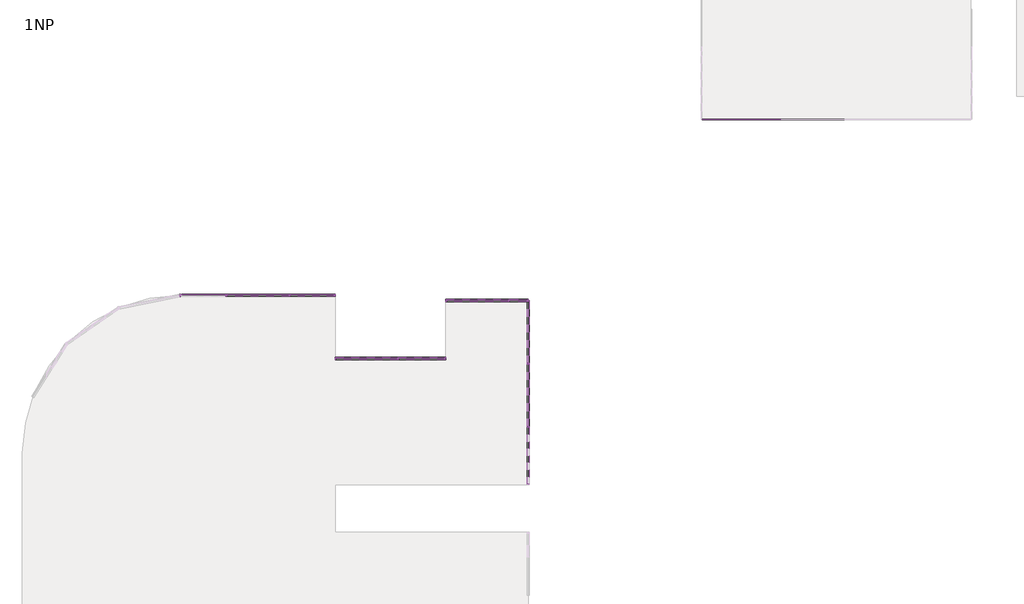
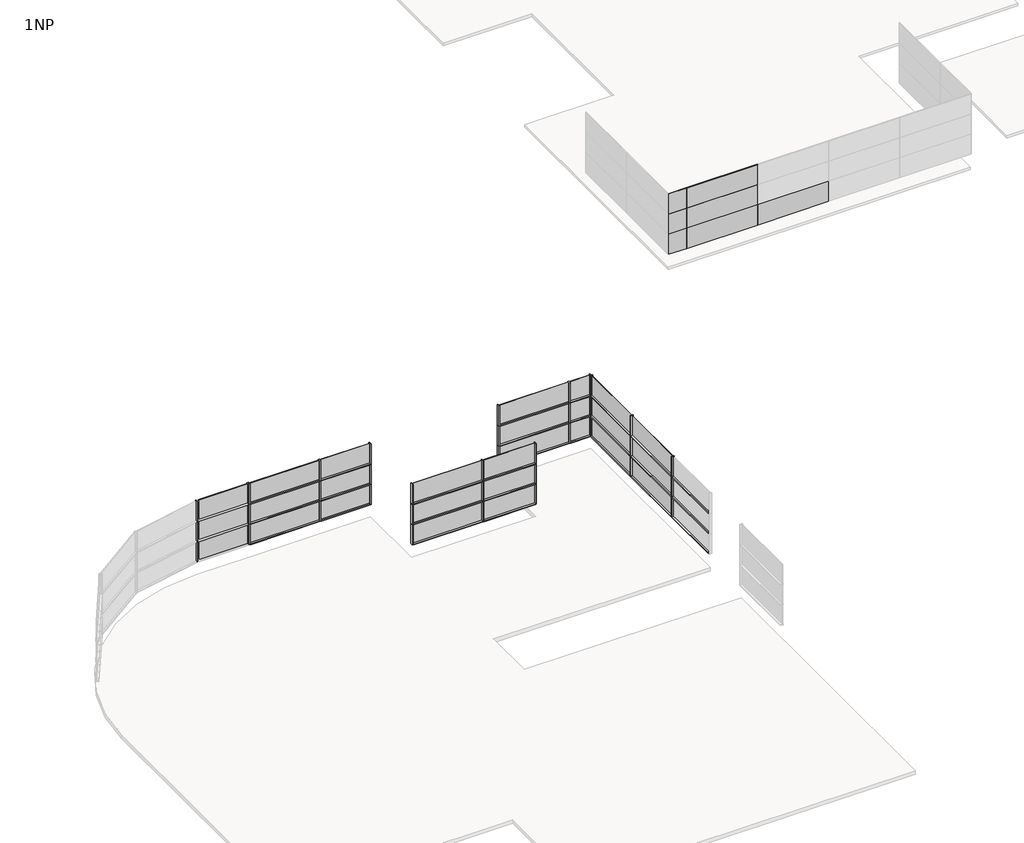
# One storey, part 3 of 4: 69 members, 34 plates.
"""IFC4 building model written with IfcOpenShell, lengths in millimetres."""

from ifc_helpers import new_model, si_unit, origin, place, context, project, spatial, transform, mapped, element, save
from components import rectangular_mullion_50_x_150mm_d99dc9be, rectangular_mullion_50_x_150mm_6588f46c, rectangular_mullion_50_x_150mm_3fe1b35e, rectangular_mullion_50_x_150mm_a037c29c, rectangular_mullion_50_x_150mm_c2546fd4, rectangular_mullion_50_x_150mm_8b4cb4b7, rectangular_mullion_50_x_150mm_185cfd49, rectangular_mullion_50_x_150mm_2fe63767, system_panel_glazed_8e9402eb, system_panel_glazed_89ac83a7, system_panel_glazed_e890f31e, system_panel_glazed_e3e91f99, system_panel_glazed_39d17f19, system_panel_glazed_18d93cd4, system_panel_glazed_d6eabcf1, system_panel_glazed_926b6355

model = new_model("IFC4")

# Units and contexts
model_context = context("Model", 3, world=origin())
ifc_project = project(units=[si_unit("LENGTHUNIT", "METRE", prefix="MILLI")], contexts=[model_context])

# Site, building, storey
site = spatial("IfcSite", under=ifc_project)
building = spatial("IfcBuilding", under=site)
storey = spatial("IfcBuildingStorey", under=building, Name="1NP", Elevation=4000.0)

# Members
placement = place(None, origin())
rectangular_mullion_50_x_150mm_shape = rectangular_mullion_50_x_150mm_d99dc9be(model_context)
element("IfcMember", 1, ObjectType="Rectangular Mullion : 50 x 150mm", at=placement, inside=storey, context=model_context, shape_type="MappedRepresentation", body=[
    mapped(rectangular_mullion_50_x_150mm_shape, transform((13503.2660975, 39.3555415, 8400.0), x_axis=(0.0, -1.0, 0.0), y_axis=(1.0, 0.0, 0.0), z_axis=(0.0, 0.0, 1.0))),
])
element("IfcMember", 2, ObjectType="Rectangular Mullion : 50 x 150mm", at=placement, inside=storey, context=model_context, shape_type="MappedRepresentation", body=[
    mapped(rectangular_mullion_50_x_150mm_shape, transform((13503.2660975, 39.3555415, 7200.0), x_axis=(0.0, -1.0, 0.0), y_axis=(1.0, 0.0, 0.0), z_axis=(0.0, 0.0, 1.0))),
])
element("IfcMember", 3, ObjectType="Rectangular Mullion : 50 x 150mm", at=placement, inside=storey, context=model_context, shape_type="MappedRepresentation", body=[
    mapped(rectangular_mullion_50_x_150mm_shape, transform((13503.2660975, 39.3555415, 6000.0), x_axis=(0.0, -1.0, 0.0), y_axis=(1.0, 0.0, 0.0), z_axis=(0.0, 0.0, 1.0))),
])
element("IfcMember", 4, ObjectType="Rectangular Mullion : 50 x 150mm", at=placement, inside=storey, context=model_context, shape_type="MappedRepresentation", body=[
    mapped(rectangular_mullion_50_x_150mm_shape, transform((13503.2660975, 4039.3555415, 8400.0), x_axis=(0.0, -1.0, 0.0), y_axis=(1.0, 0.0, 0.0), z_axis=(0.0, 0.0, 1.0))),
])
element("IfcMember", 5, ObjectType="Rectangular Mullion : 50 x 150mm", at=placement, inside=storey, context=model_context, shape_type="MappedRepresentation", body=[
    mapped(rectangular_mullion_50_x_150mm_shape, transform((13503.2660975, 4039.3555415, 7200.0), x_axis=(0.0, -1.0, 0.0), y_axis=(1.0, 0.0, 0.0), z_axis=(0.0, 0.0, 1.0))),
])
element("IfcMember", 6, ObjectType="Rectangular Mullion : 50 x 150mm", at=placement, inside=storey, context=model_context, shape_type="MappedRepresentation", body=[
    mapped(rectangular_mullion_50_x_150mm_shape, transform((13503.2660975, 4039.3555415, 6000.0), x_axis=(0.0, -1.0, 0.0), y_axis=(1.0, 0.0, 0.0), z_axis=(0.0, 0.0, 1.0))),
])
element("IfcMember", 7, ObjectType="Rectangular Mullion : 50 x 150mm", at=placement, inside=storey, context=model_context, shape_type="MappedRepresentation", body=[
    mapped(rectangular_mullion_50_x_150mm_shape, transform((-1587.173406, 8375.9839566, 6000.0), x_axis=(1.0, 0.0, 0.0), y_axis=(0.0, 1.0, 0.0), z_axis=(0.0, 0.0, 1.0))),
])
element("IfcMember", 8, ObjectType="Rectangular Mullion : 50 x 150mm", at=placement, inside=storey, context=model_context, shape_type="MappedRepresentation", body=[
    mapped(rectangular_mullion_50_x_150mm_shape, transform((-1587.173406, 8375.9839566, 7200.0), x_axis=(1.0, 0.0, 0.0), y_axis=(0.0, 1.0, 0.0), z_axis=(0.0, 0.0, 1.0))),
])
element("IfcMember", 9, ObjectType="Rectangular Mullion : 50 x 150mm", at=placement, inside=storey, context=model_context, shape_type="MappedRepresentation", body=[
    mapped(rectangular_mullion_50_x_150mm_shape, transform((-1587.173406, 8375.9839566, 8400.0), x_axis=(1.0, 0.0, 0.0), y_axis=(0.0, 1.0, 0.0), z_axis=(0.0, 0.0, 1.0))),
])
element("IfcMember", 10, ObjectType="Rectangular Mullion : 50 x 150mm", at=placement, inside=storey, context=model_context, shape_type="MappedRepresentation", body=[
    mapped(rectangular_mullion_50_x_150mm_shape, transform((5278.419219, 4375.9839566, 6000.0), x_axis=(1.0, 0.0, 0.0), y_axis=(0.0, 1.0, 0.0), z_axis=(0.0, 0.0, 1.0))),
])
element("IfcMember", 11, ObjectType="Rectangular Mullion : 50 x 150mm", at=placement, inside=storey, context=model_context, shape_type="MappedRepresentation", body=[
    mapped(rectangular_mullion_50_x_150mm_shape, transform((5278.419219, 4375.9839566, 7200.0), x_axis=(1.0, 0.0, 0.0), y_axis=(0.0, 1.0, 0.0), z_axis=(0.0, 0.0, 1.0))),
])
element("IfcMember", 12, ObjectType="Rectangular Mullion : 50 x 150mm", at=placement, inside=storey, context=model_context, shape_type="MappedRepresentation", body=[
    mapped(rectangular_mullion_50_x_150mm_shape, transform((5278.419219, 4375.9839566, 8400.0), x_axis=(1.0, 0.0, 0.0), y_axis=(0.0, 1.0, 0.0), z_axis=(0.0, 0.0, 1.0))),
])
element("IfcMember", 13, ObjectType="Rectangular Mullion : 50 x 150mm", at=placement, inside=storey, context=model_context, shape_type="MappedRepresentation", body=[
    mapped(rectangular_mullion_50_x_150mm_shape, transform((12278.419219, 8039.3555415, 6000.0), x_axis=(1.0, 0.0, 0.0), y_axis=(0.0, 1.0, 0.0), z_axis=(0.0, 0.0, 1.0))),
])
element("IfcMember", 14, ObjectType="Rectangular Mullion : 50 x 150mm", at=placement, inside=storey, context=model_context, shape_type="MappedRepresentation", body=[
    mapped(rectangular_mullion_50_x_150mm_shape, transform((12278.419219, 8039.3555415, 7200.0), x_axis=(1.0, 0.0, 0.0), y_axis=(0.0, 1.0, 0.0), z_axis=(0.0, 0.0, 1.0))),
])
element("IfcMember", 15, ObjectType="Rectangular Mullion : 50 x 150mm", at=placement, inside=storey, context=model_context, shape_type="MappedRepresentation", body=[
    mapped(rectangular_mullion_50_x_150mm_shape, transform((12278.419219, 8039.3555415, 8400.0), x_axis=(1.0, 0.0, 0.0), y_axis=(0.0, 1.0, 0.0), z_axis=(0.0, 0.0, 1.0))),
])
rectangular_mullion_50_x_150mm_2_shape = rectangular_mullion_50_x_150mm_6588f46c(model_context)
element("IfcMember", 16, ObjectType="Rectangular Mullion : 50 x 150mm", at=placement, inside=storey, context=model_context, shape_type="MappedRepresentation", body=[
    mapped(rectangular_mullion_50_x_150mm_2_shape, transform((1278.419219, 8375.9839566, 6000.0), x_axis=(1.0, 0.0, 0.0), y_axis=(0.0, 1.0, 0.0), z_axis=(0.0, 0.0, 1.0))),
])
element("IfcMember", 17, ObjectType="Rectangular Mullion : 50 x 150mm", at=placement, inside=storey, context=model_context, shape_type="MappedRepresentation", body=[
    mapped(rectangular_mullion_50_x_150mm_2_shape, transform((1278.419219, 8375.9839566, 7200.0), x_axis=(1.0, 0.0, 0.0), y_axis=(0.0, 1.0, 0.0), z_axis=(0.0, 0.0, 1.0))),
])
element("IfcMember", 18, ObjectType="Rectangular Mullion : 50 x 150mm", at=placement, inside=storey, context=model_context, shape_type="MappedRepresentation", body=[
    mapped(rectangular_mullion_50_x_150mm_2_shape, transform((1278.419219, 8375.9839566, 8400.0), x_axis=(1.0, 0.0, 0.0), y_axis=(0.0, 1.0, 0.0), z_axis=(0.0, 0.0, 1.0))),
])
element("IfcMember", 19, ObjectType="Rectangular Mullion : 50 x 150mm", at=placement, inside=storey, context=model_context, shape_type="MappedRepresentation", body=[
    mapped(rectangular_mullion_50_x_150mm_2_shape, transform((8278.419219, 4375.9839566, 6000.0), x_axis=(1.0, 0.0, 0.0), y_axis=(0.0, 1.0, 0.0), z_axis=(0.0, 0.0, 1.0))),
])
element("IfcMember", 20, ObjectType="Rectangular Mullion : 50 x 150mm", at=placement, inside=storey, context=model_context, shape_type="MappedRepresentation", body=[
    mapped(rectangular_mullion_50_x_150mm_2_shape, transform((8278.419219, 4375.9839566, 7200.0), x_axis=(1.0, 0.0, 0.0), y_axis=(0.0, 1.0, 0.0), z_axis=(0.0, 0.0, 1.0))),
])
element("IfcMember", 21, ObjectType="Rectangular Mullion : 50 x 150mm", at=placement, inside=storey, context=model_context, shape_type="MappedRepresentation", body=[
    mapped(rectangular_mullion_50_x_150mm_2_shape, transform((8278.419219, 4375.9839566, 8400.0), x_axis=(1.0, 0.0, 0.0), y_axis=(0.0, 1.0, 0.0), z_axis=(0.0, 0.0, 1.0))),
])
element("IfcMember", 22, ObjectType="Rectangular Mullion : 50 x 150mm", at=placement, inside=storey, context=model_context, shape_type="MappedRepresentation", body=[
    mapped(rectangular_mullion_50_x_150mm_2_shape, transform((13503.2660975, 8039.3555415, 6000.0), x_axis=(1.0, 0.0, 0.0), y_axis=(0.0, 1.0, 0.0), z_axis=(0.0, 0.0, 1.0))),
])
element("IfcMember", 23, ObjectType="Rectangular Mullion : 50 x 150mm", at=placement, inside=storey, context=model_context, shape_type="MappedRepresentation", body=[
    mapped(rectangular_mullion_50_x_150mm_2_shape, transform((13503.2660975, 8039.3555415, 7200.0), x_axis=(1.0, 0.0, 0.0), y_axis=(0.0, 1.0, 0.0), z_axis=(0.0, 0.0, 1.0))),
])
element("IfcMember", 24, ObjectType="Rectangular Mullion : 50 x 150mm", at=placement, inside=storey, context=model_context, shape_type="MappedRepresentation", body=[
    mapped(rectangular_mullion_50_x_150mm_2_shape, transform((13503.2660975, 8039.3555415, 8400.0), x_axis=(1.0, 0.0, 0.0), y_axis=(0.0, 1.0, 0.0), z_axis=(0.0, 0.0, 1.0))),
])
element("IfcMember", 25, ObjectType="Rectangular Mullion : 50 x 150mm", at=placement, inside=storey, context=model_context, shape_type="MappedRepresentation", body=[
    mapped(rectangular_mullion_50_x_150mm_2_shape, transform((-5587.173406, 8375.9839566, 6000.0), x_axis=(1.0, 0.0, 0.0), y_axis=(0.0, 1.0, 0.0), z_axis=(0.0, 0.0, 1.0))),
])
element("IfcMember", 26, ObjectType="Rectangular Mullion : 50 x 150mm", at=placement, inside=storey, context=model_context, shape_type="MappedRepresentation", body=[
    mapped(rectangular_mullion_50_x_150mm_2_shape, transform((-5587.173406, 8375.9839566, 7200.0), x_axis=(1.0, 0.0, 0.0), y_axis=(0.0, 1.0, 0.0), z_axis=(0.0, 0.0, 1.0))),
])
element("IfcMember", 27, ObjectType="Rectangular Mullion : 50 x 150mm", at=placement, inside=storey, context=model_context, shape_type="MappedRepresentation", body=[
    mapped(rectangular_mullion_50_x_150mm_2_shape, transform((-5587.173406, 8375.9839566, 8400.0), x_axis=(1.0, 0.0, 0.0), y_axis=(0.0, 1.0, 0.0), z_axis=(0.0, 0.0, 1.0))),
])
element("IfcMember", 28, ObjectType="Rectangular Mullion : 50 x 150mm", at=placement, inside=storey, context=model_context, shape_type="MappedRepresentation", body=[
    mapped(rectangular_mullion_50_x_150mm_2_shape, transform((-8496.7339025, 8375.9839566, 6000.0), x_axis=(0.9797958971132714, 0.1999999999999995, 0.0), y_axis=(-0.1999999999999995, 0.9797958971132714, 0.0), z_axis=(0.0, 0.0, 1.0))),
])
element("IfcMember", 29, ObjectType="Rectangular Mullion : 50 x 150mm", at=placement, inside=storey, context=model_context, shape_type="MappedRepresentation", body=[
    mapped(rectangular_mullion_50_x_150mm_2_shape, transform((-8496.7339025, 8375.9839566, 7200.0), x_axis=(0.9797958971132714, 0.1999999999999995, 0.0), y_axis=(-0.1999999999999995, 0.9797958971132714, 0.0), z_axis=(0.0, 0.0, 1.0))),
])
element("IfcMember", 30, ObjectType="Rectangular Mullion : 50 x 150mm", at=placement, inside=storey, context=model_context, shape_type="MappedRepresentation", body=[
    mapped(rectangular_mullion_50_x_150mm_2_shape, transform((-8496.7339025, 8375.9839566, 8400.0), x_axis=(0.9797958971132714, 0.1999999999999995, 0.0), y_axis=(-0.1999999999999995, 0.9797958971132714, 0.0), z_axis=(0.0, 0.0, 1.0))),
])
rectangular_mullion_50_x_150mm_3_shape = rectangular_mullion_50_x_150mm_3fe1b35e(model_context)
element("IfcMember", 31, ObjectType="Rectangular Mullion : 50 x 150mm", at=placement, inside=storey, context=model_context, shape_type="MappedRepresentation", body=[
    mapped(rectangular_mullion_50_x_150mm_3_shape, transform((13503.2660975, 14.3555415, 6000.0), x_axis=(0.0, 0.0, 1.0), y_axis=(1.0, 0.0, 0.0), z_axis=(0.0, 1.0, 0.0))),
])
element("IfcMember", 32, ObjectType="Rectangular Mullion : 50 x 150mm", at=placement, inside=storey, context=model_context, shape_type="MappedRepresentation", body=[
    mapped(rectangular_mullion_50_x_150mm_3_shape, transform((13503.2660975, 14.3555415, 4800.0), x_axis=(0.0, 0.0, 1.0), y_axis=(1.0, 0.0, 0.0), z_axis=(0.0, 1.0, 0.0))),
])
element("IfcMember", 33, ObjectType="Rectangular Mullion : 50 x 150mm", at=placement, inside=storey, context=model_context, shape_type="MappedRepresentation", body=[
    mapped(rectangular_mullion_50_x_150mm_3_shape, transform((13503.2660975, 14.3555415, 7200.0), x_axis=(0.0, 0.0, 1.0), y_axis=(1.0, 0.0, 0.0), z_axis=(0.0, 1.0, 0.0))),
])
rectangular_mullion_50_x_150mm_4_shape = rectangular_mullion_50_x_150mm_a037c29c(model_context)
element("IfcMember", 34, ObjectType="Rectangular Mullion : 50 x 150mm", at=placement, inside=storey, context=model_context, shape_type="MappedRepresentation", body=[
    mapped(rectangular_mullion_50_x_150mm_4_shape, transform((13503.2660975, 4014.3555415, 6000.0), x_axis=(0.0, 0.0, 1.0), y_axis=(1.0, 0.0, 0.0), z_axis=(0.0, 1.0, 0.0))),
])
element("IfcMember", 35, ObjectType="Rectangular Mullion : 50 x 150mm", at=placement, inside=storey, context=model_context, shape_type="MappedRepresentation", body=[
    mapped(rectangular_mullion_50_x_150mm_4_shape, transform((13503.2660975, 4014.3555415, 4800.0), x_axis=(0.0, 0.0, 1.0), y_axis=(1.0, 0.0, 0.0), z_axis=(0.0, 1.0, 0.0))),
])
element("IfcMember", 36, ObjectType="Rectangular Mullion : 50 x 150mm", at=placement, inside=storey, context=model_context, shape_type="MappedRepresentation", body=[
    mapped(rectangular_mullion_50_x_150mm_4_shape, transform((13503.2660975, 4014.3555415, 7200.0), x_axis=(0.0, 0.0, 1.0), y_axis=(1.0, 0.0, 0.0), z_axis=(0.0, 1.0, 0.0))),
])
rectangular_mullion_50_x_150mm_5_shape = rectangular_mullion_50_x_150mm_c2546fd4(model_context)
element("IfcMember", 37, ObjectType="Rectangular Mullion : 50 x 150mm", at=placement, inside=storey, context=model_context, shape_type="MappedRepresentation", body=[
    mapped(rectangular_mullion_50_x_150mm_5_shape, transform((13503.2660975, 7989.3555415, 6000.0), x_axis=(0.0, 0.0, 1.0), y_axis=(1.0, 0.0, 0.0), z_axis=(0.0, 1.0, 0.0))),
])
element("IfcMember", 38, ObjectType="Rectangular Mullion : 50 x 150mm", at=placement, inside=storey, context=model_context, shape_type="MappedRepresentation", body=[
    mapped(rectangular_mullion_50_x_150mm_5_shape, transform((13503.2660975, 7989.3555415, 4800.0), x_axis=(0.0, 0.0, 1.0), y_axis=(1.0, 0.0, 0.0), z_axis=(0.0, 1.0, 0.0))),
])
element("IfcMember", 39, ObjectType="Rectangular Mullion : 50 x 150mm", at=placement, inside=storey, context=model_context, shape_type="MappedRepresentation", body=[
    mapped(rectangular_mullion_50_x_150mm_5_shape, transform((13503.2660975, 7989.3555415, 7200.0), x_axis=(0.0, 0.0, 1.0), y_axis=(1.0, 0.0, 0.0), z_axis=(0.0, 1.0, 0.0))),
])
element("IfcMember", 40, ObjectType="Rectangular Mullion : 50 x 150mm", at=placement, inside=storey, context=model_context, shape_type="MappedRepresentation", body=[
    mapped(rectangular_mullion_50_x_150mm_5_shape, transform((-5537.173406, 8375.9839566, 6000.0), x_axis=(0.0, 0.0, 1.0), y_axis=(0.0, 1.0, 0.0), z_axis=(-1.0, 0.0, 0.0))),
])
element("IfcMember", 41, ObjectType="Rectangular Mullion : 50 x 150mm", at=placement, inside=storey, context=model_context, shape_type="MappedRepresentation", body=[
    mapped(rectangular_mullion_50_x_150mm_5_shape, transform((-5537.173406, 8375.9839566, 7200.0), x_axis=(0.0, 0.0, 1.0), y_axis=(0.0, 1.0, 0.0), z_axis=(-1.0, 0.0, 0.0))),
])
element("IfcMember", 42, ObjectType="Rectangular Mullion : 50 x 150mm", at=placement, inside=storey, context=model_context, shape_type="MappedRepresentation", body=[
    mapped(rectangular_mullion_50_x_150mm_5_shape, transform((-5537.173406, 8375.9839566, 4800.0), x_axis=(0.0, 0.0, 1.0), y_axis=(0.0, 1.0, 0.0), z_axis=(-1.0, 0.0, 0.0))),
])
element("IfcMember", 43, ObjectType="Rectangular Mullion : 50 x 150mm", at=placement, inside=storey, context=model_context, shape_type="MappedRepresentation", body=[
    mapped(rectangular_mullion_50_x_150mm_5_shape, transform((1328.419219, 4375.9839566, 4800.0), x_axis=(0.0, 0.0, 1.0), y_axis=(0.0, 1.0, 0.0), z_axis=(-1.0, 0.0, 0.0))),
])
element("IfcMember", 44, ObjectType="Rectangular Mullion : 50 x 150mm", at=placement, inside=storey, context=model_context, shape_type="MappedRepresentation", body=[
    mapped(rectangular_mullion_50_x_150mm_5_shape, transform((1328.419219, 4375.9839566, 6000.0), x_axis=(0.0, 0.0, 1.0), y_axis=(0.0, 1.0, 0.0), z_axis=(-1.0, 0.0, 0.0))),
])
element("IfcMember", 45, ObjectType="Rectangular Mullion : 50 x 150mm", at=placement, inside=storey, context=model_context, shape_type="MappedRepresentation", body=[
    mapped(rectangular_mullion_50_x_150mm_5_shape, transform((1328.419219, 4375.9839566, 7200.0), x_axis=(0.0, 0.0, 1.0), y_axis=(0.0, 1.0, 0.0), z_axis=(-1.0, 0.0, 0.0))),
])
element("IfcMember", 46, ObjectType="Rectangular Mullion : 50 x 150mm", at=placement, inside=storey, context=model_context, shape_type="MappedRepresentation", body=[
    mapped(rectangular_mullion_50_x_150mm_5_shape, transform((8328.419219, 8039.3555415, 4800.0), x_axis=(0.0, 0.0, 1.0), y_axis=(0.0, 1.0, 0.0), z_axis=(-1.0, 0.0, 0.0))),
])
element("IfcMember", 47, ObjectType="Rectangular Mullion : 50 x 150mm", at=placement, inside=storey, context=model_context, shape_type="MappedRepresentation", body=[
    mapped(rectangular_mullion_50_x_150mm_5_shape, transform((8328.419219, 8039.3555415, 6000.0), x_axis=(0.0, 0.0, 1.0), y_axis=(0.0, 1.0, 0.0), z_axis=(-1.0, 0.0, 0.0))),
])
element("IfcMember", 48, ObjectType="Rectangular Mullion : 50 x 150mm", at=placement, inside=storey, context=model_context, shape_type="MappedRepresentation", body=[
    mapped(rectangular_mullion_50_x_150mm_5_shape, transform((8328.419219, 8039.3555415, 7200.0), x_axis=(0.0, 0.0, 1.0), y_axis=(0.0, 1.0, 0.0), z_axis=(-1.0, 0.0, 0.0))),
])
element("IfcMember", 49, ObjectType="Rectangular Mullion : 50 x 150mm", at=placement, inside=storey, context=model_context, shape_type="MappedRepresentation", body=[
    mapped(rectangular_mullion_50_x_150mm_2_shape, transform((13503.2660975, 8039.3555415, 7200.0), x_axis=(0.0, 1.0, 0.0), y_axis=(1.0, 0.0, 0.0), z_axis=(0.0, 0.0, -1.0))),
])
element("IfcMember", 50, ObjectType="Rectangular Mullion : 50 x 150mm", at=placement, inside=storey, context=model_context, shape_type="MappedRepresentation", body=[
    mapped(rectangular_mullion_50_x_150mm_2_shape, transform((13503.2660975, 8039.3555415, 6000.0), x_axis=(0.0, 1.0, 0.0), y_axis=(1.0, 0.0, 0.0), z_axis=(0.0, 0.0, -1.0))),
])
element("IfcMember", 51, ObjectType="Rectangular Mullion : 50 x 150mm", at=placement, inside=storey, context=model_context, shape_type="MappedRepresentation", body=[
    mapped(rectangular_mullion_50_x_150mm_2_shape, transform((13503.2660975, 8039.3555415, 4800.0), x_axis=(0.0, 1.0, 0.0), y_axis=(1.0, 0.0, 0.0), z_axis=(0.0, 0.0, -1.0))),
])
element("IfcMember", 52, ObjectType="Rectangular Mullion : 50 x 150mm", at=placement, inside=storey, context=model_context, shape_type="MappedRepresentation", body=[
    mapped(rectangular_mullion_50_x_150mm_2_shape, transform((-5587.173406, 8375.9839566, 4800.0), x_axis=(-1.0, 0.0, 0.0), y_axis=(0.0, 1.0, 0.0), z_axis=(0.0, 0.0, -1.0))),
])
element("IfcMember", 53, ObjectType="Rectangular Mullion : 50 x 150mm", at=placement, inside=storey, context=model_context, shape_type="MappedRepresentation", body=[
    mapped(rectangular_mullion_50_x_150mm_2_shape, transform((-5587.173406, 8375.9839566, 6000.0), x_axis=(-1.0, 0.0, 0.0), y_axis=(0.0, 1.0, 0.0), z_axis=(0.0, 0.0, -1.0))),
])
element("IfcMember", 54, ObjectType="Rectangular Mullion : 50 x 150mm", at=placement, inside=storey, context=model_context, shape_type="MappedRepresentation", body=[
    mapped(rectangular_mullion_50_x_150mm_2_shape, transform((-5587.173406, 8375.9839566, 7200.0), x_axis=(-1.0, 0.0, 0.0), y_axis=(0.0, 1.0, 0.0), z_axis=(0.0, 0.0, -1.0))),
])
element("IfcMember", 55, ObjectType="Rectangular Mullion : 50 x 150mm", at=placement, inside=storey, context=model_context, shape_type="MappedRepresentation", body=[
    mapped(rectangular_mullion_50_x_150mm_2_shape, transform((1278.419219, 4375.9839566, 4800.0), x_axis=(-1.0, 0.0, 0.0), y_axis=(0.0, 1.0, 0.0), z_axis=(0.0, 0.0, -1.0))),
])
element("IfcMember", 56, ObjectType="Rectangular Mullion : 50 x 150mm", at=placement, inside=storey, context=model_context, shape_type="MappedRepresentation", body=[
    mapped(rectangular_mullion_50_x_150mm_2_shape, transform((1278.419219, 4375.9839566, 6000.0), x_axis=(-1.0, 0.0, 0.0), y_axis=(0.0, 1.0, 0.0), z_axis=(0.0, 0.0, -1.0))),
])
element("IfcMember", 57, ObjectType="Rectangular Mullion : 50 x 150mm", at=placement, inside=storey, context=model_context, shape_type="MappedRepresentation", body=[
    mapped(rectangular_mullion_50_x_150mm_2_shape, transform((1278.419219, 4375.9839566, 7200.0), x_axis=(-1.0, 0.0, 0.0), y_axis=(0.0, 1.0, 0.0), z_axis=(0.0, 0.0, -1.0))),
])
element("IfcMember", 58, ObjectType="Rectangular Mullion : 50 x 150mm", at=placement, inside=storey, context=model_context, shape_type="MappedRepresentation", body=[
    mapped(rectangular_mullion_50_x_150mm_2_shape, transform((8278.419219, 8039.3555415, 4800.0), x_axis=(-1.0, 0.0, 0.0), y_axis=(0.0, 1.0, 0.0), z_axis=(0.0, 0.0, -1.0))),
])
element("IfcMember", 59, ObjectType="Rectangular Mullion : 50 x 150mm", at=placement, inside=storey, context=model_context, shape_type="MappedRepresentation", body=[
    mapped(rectangular_mullion_50_x_150mm_2_shape, transform((8278.419219, 8039.3555415, 6000.0), x_axis=(-1.0, 0.0, 0.0), y_axis=(0.0, 1.0, 0.0), z_axis=(0.0, 0.0, -1.0))),
])
element("IfcMember", 60, ObjectType="Rectangular Mullion : 50 x 150mm", at=placement, inside=storey, context=model_context, shape_type="MappedRepresentation", body=[
    mapped(rectangular_mullion_50_x_150mm_2_shape, transform((8278.419219, 8039.3555415, 7200.0), x_axis=(-1.0, 0.0, 0.0), y_axis=(0.0, 1.0, 0.0), z_axis=(0.0, 0.0, -1.0))),
])
rectangular_mullion_50_x_150mm_6_shape = rectangular_mullion_50_x_150mm_8b4cb4b7(model_context)
element("IfcMember", 61, ObjectType="Rectangular Mullion : 50 x 150mm", at=placement, inside=storey, context=model_context, shape_type="MappedRepresentation", body=[
    mapped(rectangular_mullion_50_x_150mm_6_shape, transform((-1562.173406, 8375.9839566, 4800.0), x_axis=(0.0, 0.0, 1.0), y_axis=(0.0, 1.0, 0.0), z_axis=(-1.0, 0.0, 0.0))),
])
element("IfcMember", 62, ObjectType="Rectangular Mullion : 50 x 150mm", at=placement, inside=storey, context=model_context, shape_type="MappedRepresentation", body=[
    mapped(rectangular_mullion_50_x_150mm_6_shape, transform((-1562.173406, 8375.9839566, 6000.0), x_axis=(0.0, 0.0, 1.0), y_axis=(0.0, 1.0, 0.0), z_axis=(-1.0, 0.0, 0.0))),
])
element("IfcMember", 63, ObjectType="Rectangular Mullion : 50 x 150mm", at=placement, inside=storey, context=model_context, shape_type="MappedRepresentation", body=[
    mapped(rectangular_mullion_50_x_150mm_6_shape, transform((-1562.173406, 8375.9839566, 7200.0), x_axis=(0.0, 0.0, 1.0), y_axis=(0.0, 1.0, 0.0), z_axis=(-1.0, 0.0, 0.0))),
])
rectangular_mullion_50_x_150mm_7_shape = rectangular_mullion_50_x_150mm_185cfd49(model_context)
element("IfcMember", 64, ObjectType="Rectangular Mullion : 50 x 150mm", at=placement, inside=storey, context=model_context, shape_type="MappedRepresentation", body=[
    mapped(rectangular_mullion_50_x_150mm_7_shape, transform((5303.419219, 4375.9839566, 4800.0), x_axis=(0.0, 0.0, 1.0), y_axis=(0.0, 1.0, 0.0), z_axis=(-1.0, 0.0, 0.0))),
])
element("IfcMember", 65, ObjectType="Rectangular Mullion : 50 x 150mm", at=placement, inside=storey, context=model_context, shape_type="MappedRepresentation", body=[
    mapped(rectangular_mullion_50_x_150mm_7_shape, transform((5303.419219, 4375.9839566, 6000.0), x_axis=(0.0, 0.0, 1.0), y_axis=(0.0, 1.0, 0.0), z_axis=(-1.0, 0.0, 0.0))),
])
element("IfcMember", 66, ObjectType="Rectangular Mullion : 50 x 150mm", at=placement, inside=storey, context=model_context, shape_type="MappedRepresentation", body=[
    mapped(rectangular_mullion_50_x_150mm_7_shape, transform((5303.419219, 4375.9839566, 7200.0), x_axis=(0.0, 0.0, 1.0), y_axis=(0.0, 1.0, 0.0), z_axis=(-1.0, 0.0, 0.0))),
])
rectangular_mullion_50_x_150mm_8_shape = rectangular_mullion_50_x_150mm_2fe63767(model_context)
element("IfcMember", 67, ObjectType="Rectangular Mullion : 50 x 150mm", at=placement, inside=storey, context=model_context, shape_type="MappedRepresentation", body=[
    mapped(rectangular_mullion_50_x_150mm_8_shape, transform((12303.419219, 8039.3555415, 4800.0), x_axis=(0.0, 0.0, 1.0), y_axis=(0.0, 1.0, 0.0), z_axis=(-1.0, 0.0, 0.0))),
])
element("IfcMember", 68, ObjectType="Rectangular Mullion : 50 x 150mm", at=placement, inside=storey, context=model_context, shape_type="MappedRepresentation", body=[
    mapped(rectangular_mullion_50_x_150mm_8_shape, transform((12303.419219, 8039.3555415, 6000.0), x_axis=(0.0, 0.0, 1.0), y_axis=(0.0, 1.0, 0.0), z_axis=(-1.0, 0.0, 0.0))),
])
element("IfcMember", 69, ObjectType="Rectangular Mullion : 50 x 150mm", at=placement, inside=storey, context=model_context, shape_type="MappedRepresentation", body=[
    mapped(rectangular_mullion_50_x_150mm_8_shape, transform((12303.419219, 8039.3555415, 7200.0), x_axis=(0.0, 0.0, 1.0), y_axis=(0.0, 1.0, 0.0), z_axis=(-1.0, 0.0, 0.0))),
])

# Plates
system_panel_glazed_shape = system_panel_glazed_8e9402eb(model_context)
element("IfcPlate", 70, ObjectType="System Panel : Glazed", at=placement, inside=storey, context=model_context, shape_type="MappedRepresentation", body=[
    mapped(system_panel_glazed_shape, transform((13503.2660975, 6026.8555415, 4825.0), x_axis=(0.0, -1.0, 0.0), y_axis=(1.0, 0.0, 0.0), z_axis=(0.0, 0.0, 1.0))),
])
element("IfcPlate", 71, ObjectType="System Panel : Glazed", at=placement, inside=storey, context=model_context, shape_type="MappedRepresentation", body=[
    mapped(system_panel_glazed_shape, transform((13503.2660975, 6026.8555415, 6025.0), x_axis=(0.0, -1.0, 0.0), y_axis=(1.0, 0.0, 0.0), z_axis=(0.0, 0.0, 1.0))),
])
element("IfcPlate", 72, ObjectType="System Panel : Glazed", at=placement, inside=storey, context=model_context, shape_type="MappedRepresentation", body=[
    mapped(system_panel_glazed_shape, transform((13503.2660975, 6026.8555415, 7225.0), x_axis=(0.0, -1.0, 0.0), y_axis=(1.0, 0.0, 0.0), z_axis=(0.0, 0.0, 1.0))),
])
element("IfcPlate", 73, ObjectType="System Panel : Glazed", at=placement, inside=storey, context=model_context, shape_type="MappedRepresentation", body=[
    mapped(system_panel_glazed_shape, transform((10290.919219, 8039.3555415, 4825.0), x_axis=(1.0, 0.0, 0.0), y_axis=(0.0, 1.0, 0.0), z_axis=(0.0, 0.0, 1.0))),
])
element("IfcPlate", 74, ObjectType="System Panel : Glazed", at=placement, inside=storey, context=model_context, shape_type="MappedRepresentation", body=[
    mapped(system_panel_glazed_shape, transform((10290.919219, 8039.3555415, 6025.0), x_axis=(1.0, 0.0, 0.0), y_axis=(0.0, 1.0, 0.0), z_axis=(0.0, 0.0, 1.0))),
])
element("IfcPlate", 75, ObjectType="System Panel : Glazed", at=placement, inside=storey, context=model_context, shape_type="MappedRepresentation", body=[
    mapped(system_panel_glazed_shape, transform((10290.919219, 8039.3555415, 7225.0), x_axis=(1.0, 0.0, 0.0), y_axis=(0.0, 1.0, 0.0), z_axis=(0.0, 0.0, 1.0))),
])
element("IfcPlate", 76, ObjectType="System Panel : Glazed", at=placement, inside=storey, context=model_context, shape_type="MappedRepresentation", body=[
    mapped(system_panel_glazed_shape, transform((3290.919219, 4375.9839566, 4825.0), x_axis=(1.0, 0.0, 0.0), y_axis=(0.0, 1.0, 0.0), z_axis=(0.0, 0.0, 1.0))),
])
element("IfcPlate", 77, ObjectType="System Panel : Glazed", at=placement, inside=storey, context=model_context, shape_type="MappedRepresentation", body=[
    mapped(system_panel_glazed_shape, transform((3290.919219, 4375.9839566, 6025.0), x_axis=(1.0, 0.0, 0.0), y_axis=(0.0, 1.0, 0.0), z_axis=(0.0, 0.0, 1.0))),
])
element("IfcPlate", 78, ObjectType="System Panel : Glazed", at=placement, inside=storey, context=model_context, shape_type="MappedRepresentation", body=[
    mapped(system_panel_glazed_shape, transform((3290.919219, 4375.9839566, 7225.0), x_axis=(1.0, 0.0, 0.0), y_axis=(0.0, 1.0, 0.0), z_axis=(0.0, 0.0, 1.0))),
])
element("IfcPlate", 79, ObjectType="System Panel : Glazed", at=placement, inside=storey, context=model_context, shape_type="MappedRepresentation", body=[
    mapped(system_panel_glazed_shape, transform((-3574.673406, 8375.9839566, 4825.0), x_axis=(1.0, 0.0, 0.0), y_axis=(0.0, 1.0, 0.0), z_axis=(0.0, 0.0, 1.0))),
])
element("IfcPlate", 80, ObjectType="System Panel : Glazed", at=placement, inside=storey, context=model_context, shape_type="MappedRepresentation", body=[
    mapped(system_panel_glazed_shape, transform((-3574.673406, 8375.9839566, 6025.0), x_axis=(1.0, 0.0, 0.0), y_axis=(0.0, 1.0, 0.0), z_axis=(0.0, 0.0, 1.0))),
])
element("IfcPlate", 81, ObjectType="System Panel : Glazed", at=placement, inside=storey, context=model_context, shape_type="MappedRepresentation", body=[
    mapped(system_panel_glazed_shape, transform((-3574.673406, 8375.9839566, 7225.0), x_axis=(1.0, 0.0, 0.0), y_axis=(0.0, 1.0, 0.0), z_axis=(0.0, 0.0, 1.0))),
])
system_panel_glazed_2_shape = system_panel_glazed_89ac83a7(model_context)
element("IfcPlate", 82, ObjectType="System Panel : Glazed", at=placement, inside=storey, context=model_context, shape_type="MappedRepresentation", body=[
    mapped(system_panel_glazed_2_shape, transform((13503.2660975, 2039.3555415, 4825.0), x_axis=(0.0, -1.0, 0.0), y_axis=(1.0, 0.0, 0.0), z_axis=(0.0, 0.0, 1.0))),
])
element("IfcPlate", 83, ObjectType="System Panel : Glazed", at=placement, inside=storey, context=model_context, shape_type="MappedRepresentation", body=[
    mapped(system_panel_glazed_2_shape, transform((13503.2660975, 2039.3555415, 6025.0), x_axis=(0.0, -1.0, 0.0), y_axis=(1.0, 0.0, 0.0), z_axis=(0.0, 0.0, 1.0))),
])
element("IfcPlate", 84, ObjectType="System Panel : Glazed", at=placement, inside=storey, context=model_context, shape_type="MappedRepresentation", body=[
    mapped(system_panel_glazed_2_shape, transform((13503.2660975, 2039.3555415, 7225.0), x_axis=(0.0, -1.0, 0.0), y_axis=(1.0, 0.0, 0.0), z_axis=(0.0, 0.0, 1.0))),
])
system_panel_glazed_3_shape = system_panel_glazed_e890f31e(model_context)
element("IfcPlate", 85, ObjectType="System Panel : Glazed", at=placement, inside=storey, context=model_context, shape_type="MappedRepresentation", body=[
    mapped(system_panel_glazed_3_shape, transform((-166.8770935, 8375.9839566, 4825.0), x_axis=(1.0, 0.0, 0.0), y_axis=(0.0, 1.0, 0.0), z_axis=(0.0, 0.0, 1.0))),
])
element("IfcPlate", 86, ObjectType="System Panel : Glazed", at=placement, inside=storey, context=model_context, shape_type="MappedRepresentation", body=[
    mapped(system_panel_glazed_3_shape, transform((-166.8770935, 8375.9839566, 6025.0), x_axis=(1.0, 0.0, 0.0), y_axis=(0.0, 1.0, 0.0), z_axis=(0.0, 0.0, 1.0))),
])
element("IfcPlate", 87, ObjectType="System Panel : Glazed", at=placement, inside=storey, context=model_context, shape_type="MappedRepresentation", body=[
    mapped(system_panel_glazed_3_shape, transform((-166.8770935, 8375.9839566, 7225.0), x_axis=(1.0, 0.0, 0.0), y_axis=(0.0, 1.0, 0.0), z_axis=(0.0, 0.0, 1.0))),
])
system_panel_glazed_4_shape = system_panel_glazed_e3e91f99(model_context)
element("IfcPlate", 88, ObjectType="System Panel : Glazed", at=placement, inside=storey, context=model_context, shape_type="MappedRepresentation", body=[
    mapped(system_panel_glazed_4_shape, transform((6765.919219, 4375.9839566, 4825.0), x_axis=(1.0, 0.0, 0.0), y_axis=(0.0, 1.0, 0.0), z_axis=(0.0, 0.0, 1.0))),
])
element("IfcPlate", 89, ObjectType="System Panel : Glazed", at=placement, inside=storey, context=model_context, shape_type="MappedRepresentation", body=[
    mapped(system_panel_glazed_4_shape, transform((6765.919219, 4375.9839566, 6025.0), x_axis=(1.0, 0.0, 0.0), y_axis=(0.0, 1.0, 0.0), z_axis=(0.0, 0.0, 1.0))),
])
element("IfcPlate", 90, ObjectType="System Panel : Glazed", at=placement, inside=storey, context=model_context, shape_type="MappedRepresentation", body=[
    mapped(system_panel_glazed_4_shape, transform((6765.919219, 4375.9839566, 7225.0), x_axis=(1.0, 0.0, 0.0), y_axis=(0.0, 1.0, 0.0), z_axis=(0.0, 0.0, 1.0))),
])
system_panel_glazed_5_shape = system_panel_glazed_39d17f19(model_context)
element("IfcPlate", 91, ObjectType="System Panel : Glazed", at=placement, inside=storey, context=model_context, shape_type="MappedRepresentation", body=[
    mapped(system_panel_glazed_5_shape, transform((12878.3426582, 8039.3555415, 4825.0), x_axis=(1.0, 0.0, 0.0), y_axis=(0.0, 1.0, 0.0), z_axis=(0.0, 0.0, 1.0))),
])
element("IfcPlate", 92, ObjectType="System Panel : Glazed", at=placement, inside=storey, context=model_context, shape_type="MappedRepresentation", body=[
    mapped(system_panel_glazed_5_shape, transform((12878.3426582, 8039.3555415, 6025.0), x_axis=(1.0, 0.0, 0.0), y_axis=(0.0, 1.0, 0.0), z_axis=(0.0, 0.0, 1.0))),
])
element("IfcPlate", 93, ObjectType="System Panel : Glazed", at=placement, inside=storey, context=model_context, shape_type="MappedRepresentation", body=[
    mapped(system_panel_glazed_5_shape, transform((12878.3426582, 8039.3555415, 7225.0), x_axis=(1.0, 0.0, 0.0), y_axis=(0.0, 1.0, 0.0), z_axis=(0.0, 0.0, 1.0))),
])
system_panel_glazed_6_shape = system_panel_glazed_18d93cd4(model_context)
element("IfcPlate", 94, ObjectType="System Panel : Glazed", at=placement, inside=storey, context=model_context, shape_type="MappedRepresentation", body=[
    mapped(system_panel_glazed_6_shape, transform((-7041.9536543, 8375.9839566, 4825.0), x_axis=(1.0, 0.0, 0.0), y_axis=(0.0, 1.0, 0.0), z_axis=(0.0, 0.0, 1.0))),
])
element("IfcPlate", 95, ObjectType="System Panel : Glazed", at=placement, inside=storey, context=model_context, shape_type="MappedRepresentation", body=[
    mapped(system_panel_glazed_6_shape, transform((-7041.9536543, 8375.9839566, 6025.0), x_axis=(1.0, 0.0, 0.0), y_axis=(0.0, 1.0, 0.0), z_axis=(0.0, 0.0, 1.0))),
])
element("IfcPlate", 96, ObjectType="System Panel : Glazed", at=placement, inside=storey, context=model_context, shape_type="MappedRepresentation", body=[
    mapped(system_panel_glazed_6_shape, transform((-7041.9536543, 8375.9839566, 7225.0), x_axis=(1.0, 0.0, 0.0), y_axis=(0.0, 1.0, 0.0), z_axis=(0.0, 0.0, 1.0))),
])
system_panel_glazed_7_shape = system_panel_glazed_d6eabcf1(model_context)
element("IfcPlate", 97, ObjectType="System Panel : Glazed", at=placement, inside=storey, context=model_context, shape_type="MappedRepresentation", body=[
    mapped(system_panel_glazed_7_shape, transform((31503.2660975, 19519.7749227, 4800.0), x_axis=(-1.0, 0.0, 0.0), y_axis=(0.0, -1.0, 0.0), z_axis=(0.0, 0.0, 1.0))),
])
element("IfcPlate", 98, ObjectType="System Panel : Glazed", at=placement, inside=storey, context=model_context, shape_type="MappedRepresentation", body=[
    mapped(system_panel_glazed_7_shape, transform((27503.2660975, 19519.7749227, 4800.0), x_axis=(-1.0, 0.0, 0.0), y_axis=(0.0, -1.0, 0.0), z_axis=(0.0, 0.0, 1.0))),
])
element("IfcPlate", 99, ObjectType="System Panel : Glazed", at=placement, inside=storey, context=model_context, shape_type="MappedRepresentation", body=[
    mapped(system_panel_glazed_7_shape, transform((27503.2660975, 19519.7749227, 6000.0), x_axis=(-1.0, 0.0, 0.0), y_axis=(0.0, -1.0, 0.0), z_axis=(0.0, 0.0, 1.0))),
])
element("IfcPlate", 100, ObjectType="System Panel : Glazed", at=placement, inside=storey, context=model_context, shape_type="MappedRepresentation", body=[
    mapped(system_panel_glazed_7_shape, transform((27503.2660975, 19519.7749227, 7200.0), x_axis=(-1.0, 0.0, 0.0), y_axis=(0.0, -1.0, 0.0), z_axis=(0.0, 0.0, 1.0))),
])
system_panel_glazed_8_shape = system_panel_glazed_926b6355(model_context)
element("IfcPlate", 101, ObjectType="System Panel : Glazed", at=placement, inside=storey, context=model_context, shape_type="MappedRepresentation", body=[
    mapped(system_panel_glazed_8_shape, transform((25003.2660975, 19519.7749227, 4800.0), x_axis=(-1.0, 0.0, 0.0), y_axis=(0.0, -1.0, 0.0), z_axis=(0.0, 0.0, 1.0))),
])
element("IfcPlate", 102, ObjectType="System Panel : Glazed", at=placement, inside=storey, context=model_context, shape_type="MappedRepresentation", body=[
    mapped(system_panel_glazed_8_shape, transform((25003.2660975, 19519.7749227, 6000.0), x_axis=(-1.0, 0.0, 0.0), y_axis=(0.0, -1.0, 0.0), z_axis=(0.0, 0.0, 1.0))),
])
element("IfcPlate", 103, ObjectType="System Panel : Glazed", at=placement, inside=storey, context=model_context, shape_type="MappedRepresentation", body=[
    mapped(system_panel_glazed_8_shape, transform((25003.2660975, 19519.7749227, 7200.0), x_axis=(-1.0, 0.0, 0.0), y_axis=(0.0, -1.0, 0.0), z_axis=(0.0, 0.0, 1.0))),
])

save(model, "model.ifc")
